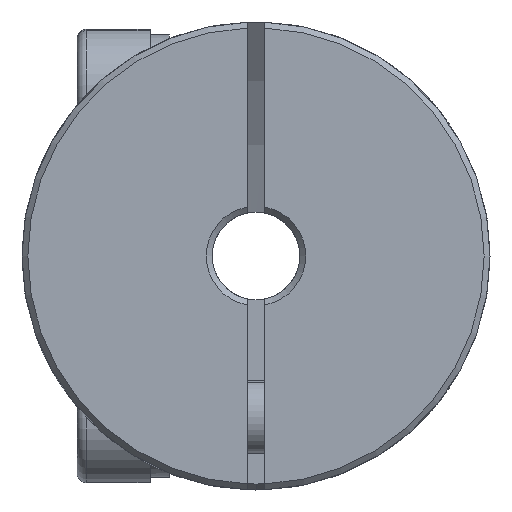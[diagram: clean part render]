
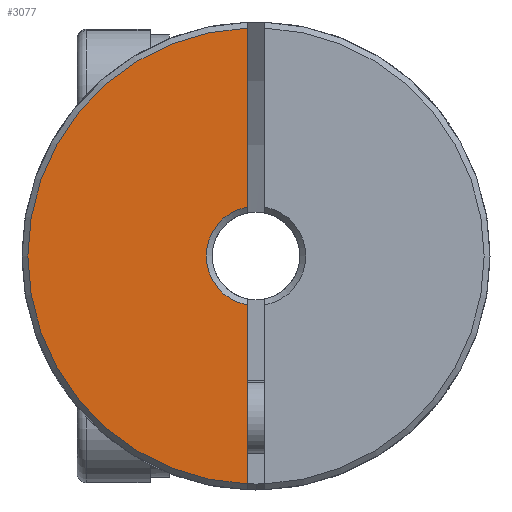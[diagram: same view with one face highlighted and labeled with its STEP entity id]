
A CAD part, front view. The second image highlights one B-rep face of the part: STEP entity #3077.
In plain terms, the highlighted planar face has unit normal (0, -1, 0).
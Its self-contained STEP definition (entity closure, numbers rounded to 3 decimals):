
#104 = FACE_OUTER_BOUND ( 'NONE', #115, .T. ) ;
#115 = EDGE_LOOP ( 'NONE', ( #2923, #7297, #4731, #5649 ) ) ;
#175 = VECTOR ( 'NONE', #4394, 1000. ) ;
#359 = CARTESIAN_POINT ( 'NONE',  ( -0.3, -15.02, 0. ) ) ;
#455 = CARTESIAN_POINT ( 'NONE',  ( -0.3, -15.02, 0. ) ) ;
#690 = DIRECTION ( 'NONE',  ( 0., 1., 0. ) ) ;
#867 = EDGE_CURVE ( 'NONE', #3741, #4147, #2549, .T. ) ;
#907 = AXIS2_PLACEMENT_3D ( 'NONE', #4754, #690, #6617 ) ;
#1004 = AXIS2_PLACEMENT_3D ( 'NONE', #1754, #4270, #2941 ) ;
#1183 = AXIS2_PLACEMENT_3D ( 'NONE', #5748, #1562, #1662 ) ;
#1562 = DIRECTION ( 'NONE',  ( 0., -1., 0. ) ) ;
#1662 = DIRECTION ( 'NONE',  ( 0., 0., 1. ) ) ;
#1754 = CARTESIAN_POINT ( 'NONE',  ( 0., -15.02, 0. ) ) ;
#1881 = VERTEX_POINT ( 'NONE', #3993 ) ;
#2548 = LINE ( 'NONE', #455, #5304 ) ;
#2549 = CIRCLE ( 'NONE', #1183, 7.8 ) ;
#2923 = ORIENTED_EDGE ( 'NONE', *, *, #4904, .F. ) ;
#2941 = DIRECTION ( 'NONE',  ( 0., 0., 1. ) ) ;
#3077 = ADVANCED_FACE ( 'NONE', ( #104 ), #3676, .F. ) ;
#3142 = CIRCLE ( 'NONE', #1004, 1.7 ) ;
#3527 = EDGE_CURVE ( 'NONE', #1881, #3697, #3142, .T. ) ;
#3676 = PLANE ( 'NONE',  #907 ) ;
#3697 = VERTEX_POINT ( 'NONE', #4415 ) ;
#3741 = VERTEX_POINT ( 'NONE', #5712 ) ;
#3993 = CARTESIAN_POINT ( 'NONE',  ( -0.3, -15.02, -1.673 ) ) ;
#4147 = VERTEX_POINT ( 'NONE', #7226 ) ;
#4270 = DIRECTION ( 'NONE',  ( 0., 1., 0. ) ) ;
#4394 = DIRECTION ( 'NONE',  ( 0., 0., -1. ) ) ;
#4415 = CARTESIAN_POINT ( 'NONE',  ( -0.3, -15.02, 1.673 ) ) ;
#4731 = ORIENTED_EDGE ( 'NONE', *, *, #5320, .F. ) ;
#4754 = CARTESIAN_POINT ( 'NONE',  ( 0., -15.02, 0. ) ) ;
#4904 = EDGE_CURVE ( 'NONE', #3741, #3697, #6711, .T. ) ;
#5304 = VECTOR ( 'NONE', #6849, 1000. ) ;
#5320 = EDGE_CURVE ( 'NONE', #1881, #4147, #2548, .T. ) ;
#5649 = ORIENTED_EDGE ( 'NONE', *, *, #3527, .T. ) ;
#5712 = CARTESIAN_POINT ( 'NONE',  ( -0.3, -15.02, 7.794 ) ) ;
#5748 = CARTESIAN_POINT ( 'NONE',  ( 0., -15.02, 0. ) ) ;
#6617 = DIRECTION ( 'NONE',  ( 0., 0., 1. ) ) ;
#6711 = LINE ( 'NONE', #359, #175 ) ;
#6849 = DIRECTION ( 'NONE',  ( 0., 0., -1. ) ) ;
#7226 = CARTESIAN_POINT ( 'NONE',  ( -0.3, -15.02, -7.794 ) ) ;
#7297 = ORIENTED_EDGE ( 'NONE', *, *, #867, .T. ) ;
